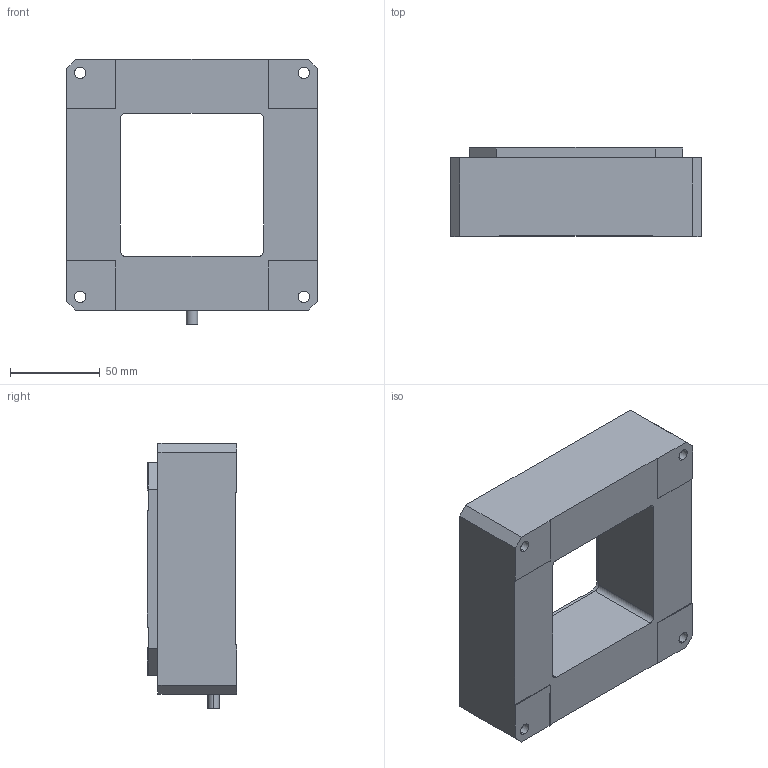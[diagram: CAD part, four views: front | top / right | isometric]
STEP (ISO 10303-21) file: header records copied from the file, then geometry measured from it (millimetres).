
FILE_DESCRIPTION (( 'STEP AP214' ), '1' );
FILE_NAME ('XD503.T10K-B1外形三维-23.08.25.STEP', '2023-08-25T07:05:47', ( 'Windows User' ), ( 'P R C' ), 'SwSTEP 2.0', 'SolidWorks 2016', '' );
FILE_SCHEMA (( 'AUTOMOTIVE_DESIGN' ));
Length unit declared in the file: millimetre
Products named in the file (1): XD503.T10K-B1外形三维-23.08.25
Bounding box: 140 x 50 x 148 mm (x, y, z)
Volume: 594276.7 mm3; surface area: 75011.7 mm2
Topology: 1 solids, 1 shells, 150 faces, 394 edges, 236 vertices
Faces by surface type: plane 60, cylinder 58, cone 32
Entity records: 4780 total; most frequent: DIRECTION 780, CARTESIAN_POINT 749, ORIENTED_EDGE 724, EDGE_CURVE 362, AXIS2_PLACEMENT_3D 267, LINE 246, VECTOR 246, VERTEX_POINT 236
